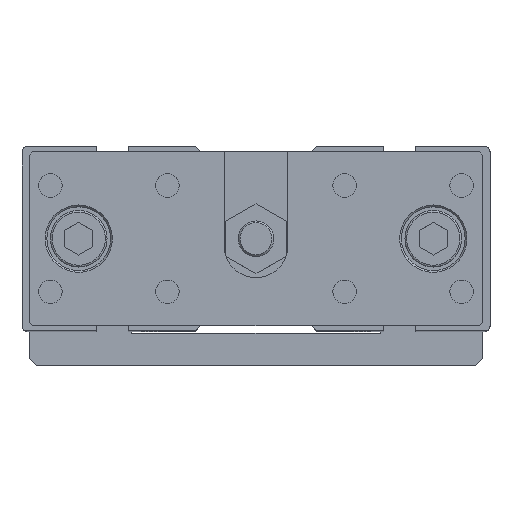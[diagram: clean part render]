
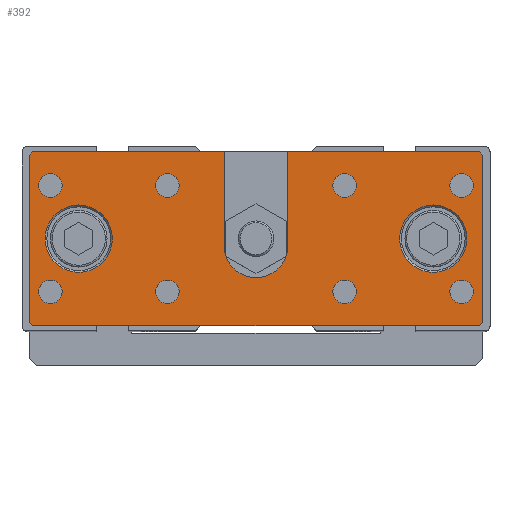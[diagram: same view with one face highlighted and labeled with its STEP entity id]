
A CAD part, top view. The second image highlights one B-rep face of the part: STEP entity #392.
In plain terms, the highlighted planar face has unit normal (0, 0, 1).
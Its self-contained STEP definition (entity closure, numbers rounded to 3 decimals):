
#174=CARTESIAN_POINT('',(-40.5,0.,107.0));
#175=VERTEX_POINT('',#174);
#176=CARTESIAN_POINT('',(-50.0,0.0,107.0));
#177=DIRECTION('',(0.0,0.0,1.0));
#178=DIRECTION('',(-1.0,0.0,0.0));
#179=AXIS2_PLACEMENT_3D('',#176,#177,#178);
#180=CIRCLE('',#179,9.5);
#181=EDGE_CURVE('',#175,#175,#180,.T.);
#186=CARTESIAN_POINT('',(0.0,-24.5,107.0));
#187=DIRECTION('',(0.0,0.0,1.0));
#188=DIRECTION('',(1.0,0.0,0.0));
#189=AXIS2_PLACEMENT_3D('',#186,#187,#188);
#190=PLANE('',#189);
#191=CARTESIAN_POINT('',(-63.,-24.5,107.0));
#192=VERTEX_POINT('',#191);
#193=CARTESIAN_POINT('',(-64.0,-23.5,107.0));
#194=VERTEX_POINT('',#193);
#195=CARTESIAN_POINT('',(-63.,-24.5,107.0));
#196=DIRECTION('',(-0.707,0.707,0.0));
#197=VECTOR('',#196,1.414);
#198=LINE('',#195,#197);
#199=EDGE_CURVE('',#192,#194,#198,.T.);
#200=ORIENTED_EDGE('',*,*,#199,.F.);
#201=CARTESIAN_POINT('',(63.,-24.5,107.0));
#202=VERTEX_POINT('',#201);
#203=CARTESIAN_POINT('',(-63.,-24.5,107.0));
#204=DIRECTION('',(1.0,0.0,0.0));
#205=VECTOR('',#204,126.);
#206=LINE('',#203,#205);
#207=EDGE_CURVE('',#192,#202,#206,.T.);
#208=ORIENTED_EDGE('',*,*,#207,.T.);
#209=CARTESIAN_POINT('',(64.0,-23.5,107.0));
#210=VERTEX_POINT('',#209);
#211=CARTESIAN_POINT('',(64.0,-23.5,107.0));
#212=DIRECTION('',(-0.707,-0.707,0.0));
#213=VECTOR('',#212,1.414);
#214=LINE('',#211,#213);
#215=EDGE_CURVE('',#210,#202,#214,.T.);
#216=ORIENTED_EDGE('',*,*,#215,.F.);
#217=CARTESIAN_POINT('',(64.0,23.5,107.0));
#218=VERTEX_POINT('',#217);
#219=CARTESIAN_POINT('',(64.0,-23.5,107.0));
#220=DIRECTION('',(0.0,1.0,0.0));
#221=VECTOR('',#220,47.);
#222=LINE('',#219,#221);
#223=EDGE_CURVE('',#210,#218,#222,.T.);
#224=ORIENTED_EDGE('',*,*,#223,.T.);
#225=CARTESIAN_POINT('',(63.,24.5,107.0));
#226=VERTEX_POINT('',#225);
#227=CARTESIAN_POINT('',(63.,24.5,107.0));
#228=DIRECTION('',(0.707,-0.707,0.0));
#229=VECTOR('',#228,1.414);
#230=LINE('',#227,#229);
#231=EDGE_CURVE('',#226,#218,#230,.T.);
#232=ORIENTED_EDGE('',*,*,#231,.F.);
#233=CARTESIAN_POINT('',(9.,24.5,107.0));
#234=VERTEX_POINT('',#233);
#235=CARTESIAN_POINT('',(63.,24.5,107.0));
#236=DIRECTION('',(-1.0,0.0,0.0));
#237=VECTOR('',#236,54.0);
#238=LINE('',#235,#237);
#239=EDGE_CURVE('',#226,#234,#238,.T.);
#240=ORIENTED_EDGE('',*,*,#239,.T.);
#241=CARTESIAN_POINT('',(9.,-2.,107.0));
#242=VERTEX_POINT('',#241);
#243=CARTESIAN_POINT('',(9.,24.5,107.0));
#244=DIRECTION('',(0.0,-1.0,0.0));
#245=VECTOR('',#244,26.5);
#246=LINE('',#243,#245);
#247=EDGE_CURVE('',#234,#242,#246,.T.);
#248=ORIENTED_EDGE('',*,*,#247,.T.);
#249=CARTESIAN_POINT('',(-9.,-2.,107.0));
#250=VERTEX_POINT('',#249);
#251=CARTESIAN_POINT('',(0.0,-2.,107.0));
#252=DIRECTION('',(0.0,0.0,-1.0));
#253=DIRECTION('',(1.0,0.0,0.0));
#254=AXIS2_PLACEMENT_3D('',#251,#252,#253);
#255=CIRCLE('',#254,9.);
#256=EDGE_CURVE('',#242,#250,#255,.T.);
#257=ORIENTED_EDGE('',*,*,#256,.T.);
#258=CARTESIAN_POINT('',(-9.,24.5,107.0));
#259=VERTEX_POINT('',#258);
#260=CARTESIAN_POINT('',(-9.,-2.,107.0));
#261=DIRECTION('',(0.0,1.0,0.0));
#262=VECTOR('',#261,26.5);
#263=LINE('',#260,#262);
#264=EDGE_CURVE('',#250,#259,#263,.T.);
#265=ORIENTED_EDGE('',*,*,#264,.T.);
#266=CARTESIAN_POINT('',(-63.,24.5,107.0));
#267=VERTEX_POINT('',#266);
#268=CARTESIAN_POINT('',(-9.,24.5,107.0));
#269=DIRECTION('',(-1.0,0.0,0.0));
#270=VECTOR('',#269,54.0);
#271=LINE('',#268,#270);
#272=EDGE_CURVE('',#259,#267,#271,.T.);
#273=ORIENTED_EDGE('',*,*,#272,.T.);
#274=CARTESIAN_POINT('',(-64.0,23.5,107.0));
#275=VERTEX_POINT('',#274);
#276=CARTESIAN_POINT('',(-64.0,23.5,107.0));
#277=DIRECTION('',(0.707,0.707,0.0));
#278=VECTOR('',#277,1.414);
#279=LINE('',#276,#278);
#280=EDGE_CURVE('',#275,#267,#279,.T.);
#281=ORIENTED_EDGE('',*,*,#280,.F.);
#282=CARTESIAN_POINT('',(-64.0,23.5,107.0));
#283=DIRECTION('',(0.0,-1.0,0.0));
#284=VECTOR('',#283,47.);
#285=LINE('',#282,#284);
#286=EDGE_CURVE('',#275,#194,#285,.T.);
#287=ORIENTED_EDGE('',*,*,#286,.T.);
#288=EDGE_LOOP('',(#200,#208,#216,#224,#232,#240,#248,#257,#265,#273,#281,#287));
#289=FACE_OUTER_BOUND('',#288,.T.);
#290=CARTESIAN_POINT('',(59.5,0.,107.0));
#291=VERTEX_POINT('',#290);
#292=CARTESIAN_POINT('',(50.0,0.0,107.0));
#293=DIRECTION('',(0.0,0.0,1.0));
#294=DIRECTION('',(-1.0,0.0,0.0));
#295=AXIS2_PLACEMENT_3D('',#292,#293,#294);
#296=CIRCLE('',#295,9.5);
#297=EDGE_CURVE('',#291,#291,#296,.T.);
#298=ORIENTED_EDGE('',*,*,#297,.F.);
#299=EDGE_LOOP('',(#298));
#300=FACE_BOUND('',#299,.T.);
#301=CARTESIAN_POINT('',(28.323,-15.0,107.0));
#302=VERTEX_POINT('',#301);
#303=CARTESIAN_POINT('',(25.0,-15.0,107.));
#304=DIRECTION('',(0.0,0.0,-1.0));
#305=DIRECTION('',(1.0,0.0,0.0));
#306=AXIS2_PLACEMENT_3D('',#303,#304,#305);
#307=CIRCLE('',#306,3.324);
#308=EDGE_CURVE('',#302,#302,#307,.T.);
#309=ORIENTED_EDGE('',*,*,#308,.T.);
#310=EDGE_LOOP('',(#309));
#311=FACE_BOUND('',#310,.T.);
#312=CARTESIAN_POINT('',(-21.677,-15.0,107.0));
#313=VERTEX_POINT('',#312);
#314=CARTESIAN_POINT('',(-25.0,-15.0,107.));
#315=DIRECTION('',(0.0,0.0,-1.0));
#316=DIRECTION('',(1.0,0.0,0.0));
#317=AXIS2_PLACEMENT_3D('',#314,#315,#316);
#318=CIRCLE('',#317,3.324);
#319=EDGE_CURVE('',#313,#313,#318,.T.);
#320=ORIENTED_EDGE('',*,*,#319,.T.);
#321=EDGE_LOOP('',(#320));
#322=FACE_BOUND('',#321,.T.);
#323=CARTESIAN_POINT('',(28.323,15.0,107.0));
#324=VERTEX_POINT('',#323);
#325=CARTESIAN_POINT('',(25.0,15.0,107.));
#326=DIRECTION('',(0.0,0.0,-1.0));
#327=DIRECTION('',(1.0,0.0,0.0));
#328=AXIS2_PLACEMENT_3D('',#325,#326,#327);
#329=CIRCLE('',#328,3.324);
#330=EDGE_CURVE('',#324,#324,#329,.T.);
#331=ORIENTED_EDGE('',*,*,#330,.T.);
#332=EDGE_LOOP('',(#331));
#333=FACE_BOUND('',#332,.T.);
#334=CARTESIAN_POINT('',(61.324,-15.0,107.0));
#335=VERTEX_POINT('',#334);
#336=CARTESIAN_POINT('',(58.,-15.0,107.));
#337=DIRECTION('',(0.0,0.0,-1.0));
#338=DIRECTION('',(1.0,0.0,0.0));
#339=AXIS2_PLACEMENT_3D('',#336,#337,#338);
#340=CIRCLE('',#339,3.324);
#341=EDGE_CURVE('',#335,#335,#340,.T.);
#342=ORIENTED_EDGE('',*,*,#341,.T.);
#343=EDGE_LOOP('',(#342));
#344=FACE_BOUND('',#343,.T.);
#345=CARTESIAN_POINT('',(-54.677,-15.0,107.0));
#346=VERTEX_POINT('',#345);
#347=CARTESIAN_POINT('',(-58.,-15.0,107.));
#348=DIRECTION('',(0.0,0.0,-1.0));
#349=DIRECTION('',(1.0,0.0,0.0));
#350=AXIS2_PLACEMENT_3D('',#347,#348,#349);
#351=CIRCLE('',#350,3.324);
#352=EDGE_CURVE('',#346,#346,#351,.T.);
#353=ORIENTED_EDGE('',*,*,#352,.T.);
#354=EDGE_LOOP('',(#353));
#355=FACE_BOUND('',#354,.T.);
#356=CARTESIAN_POINT('',(61.324,15.0,107.0));
#357=VERTEX_POINT('',#356);
#358=CARTESIAN_POINT('',(58.,15.0,107.));
#359=DIRECTION('',(0.0,0.0,-1.0));
#360=DIRECTION('',(1.0,0.0,0.0));
#361=AXIS2_PLACEMENT_3D('',#358,#359,#360);
#362=CIRCLE('',#361,3.324);
#363=EDGE_CURVE('',#357,#357,#362,.T.);
#364=ORIENTED_EDGE('',*,*,#363,.T.);
#365=EDGE_LOOP('',(#364));
#366=FACE_BOUND('',#365,.T.);
#367=CARTESIAN_POINT('',(-21.677,15.0,107.0));
#368=VERTEX_POINT('',#367);
#369=CARTESIAN_POINT('',(-25.0,15.0,107.));
#370=DIRECTION('',(0.0,0.0,-1.0));
#371=DIRECTION('',(1.0,0.0,0.0));
#372=AXIS2_PLACEMENT_3D('',#369,#370,#371);
#373=CIRCLE('',#372,3.324);
#374=EDGE_CURVE('',#368,#368,#373,.T.);
#375=ORIENTED_EDGE('',*,*,#374,.T.);
#376=EDGE_LOOP('',(#375));
#377=FACE_BOUND('',#376,.T.);
#378=CARTESIAN_POINT('',(-54.677,15.0,107.0));
#379=VERTEX_POINT('',#378);
#380=CARTESIAN_POINT('',(-58.,15.0,107.));
#381=DIRECTION('',(0.0,0.0,-1.0));
#382=DIRECTION('',(1.0,0.0,0.0));
#383=AXIS2_PLACEMENT_3D('',#380,#381,#382);
#384=CIRCLE('',#383,3.324);
#385=EDGE_CURVE('',#379,#379,#384,.T.);
#386=ORIENTED_EDGE('',*,*,#385,.T.);
#387=EDGE_LOOP('',(#386));
#388=FACE_BOUND('',#387,.T.);
#389=ORIENTED_EDGE('',*,*,#181,.F.);
#390=EDGE_LOOP('',(#389));
#391=FACE_BOUND('',#390,.T.);
#392=ADVANCED_FACE('',(#289,#300,#311,#322,#333,#344,#355,#366,#377,#388,#391),#190,.T.);
